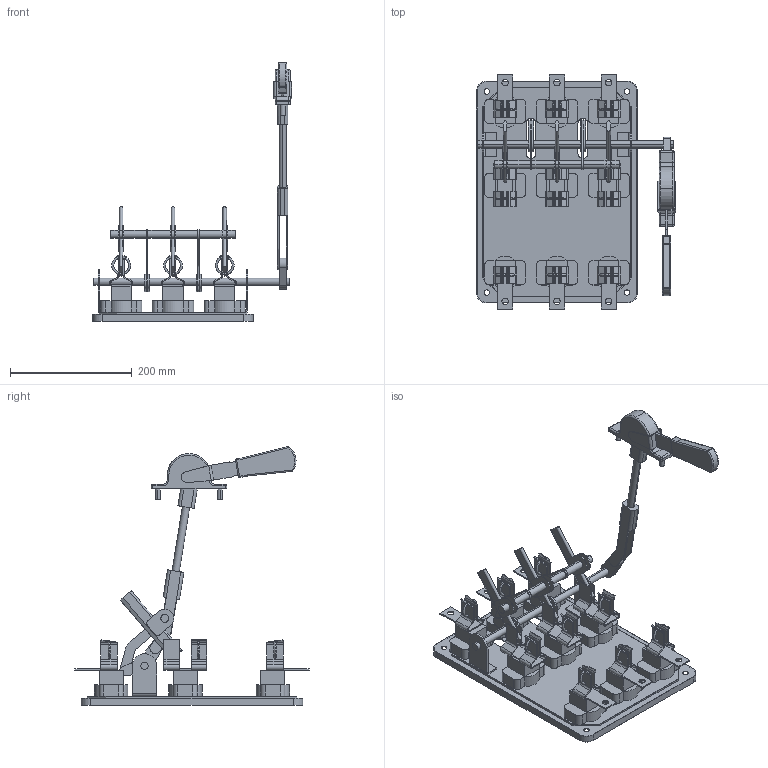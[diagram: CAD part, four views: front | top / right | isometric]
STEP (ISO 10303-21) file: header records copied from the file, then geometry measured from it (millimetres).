
FILE_DESCRIPTION (( 'STEP AP214' ), '1' );
FILE_NAME ('Ðàçúåäèíèòåëü ÐÏÑ-4Ï-400À-áåçÏÂ-Ó3-ÊÝÀÇ.STEP', '2023-05-01T20:23:33', ( '' ), ( '' ), 'SwSTEP 2.0', 'SolidWorks 2018', '' );
FILE_SCHEMA (( 'AUTOMOTIVE_DESIGN' ));
Length unit declared in the file: millimetre
Products named in the file (1): Ðàçúåäèíèòåëü ÐÏÑ-4Ï-400À-áåçÏÂ-Ó3-ÊÝÀÇ
Bounding box: 326.5 x 384 x 424.53 mm (x, y, z)
Volume: 1603664.2 mm3; surface area: 555063.2 mm2
Topology: 9 solids, 9 shells, 1124 faces, 3102 edges, 2003 vertices
Faces by surface type: plane 619, cylinder 407, torus 84, sphere 14
Entity records: 50421 total; most frequent: CARTESIAN_POINT 8594, ORIENTED_EDGE 6188, DIRECTION 6169, EDGE_CURVE 3094, AXIS2_PLACEMENT_3D 2106, VERTEX_POINT 2001, VECTOR 1957, LINE 1957
